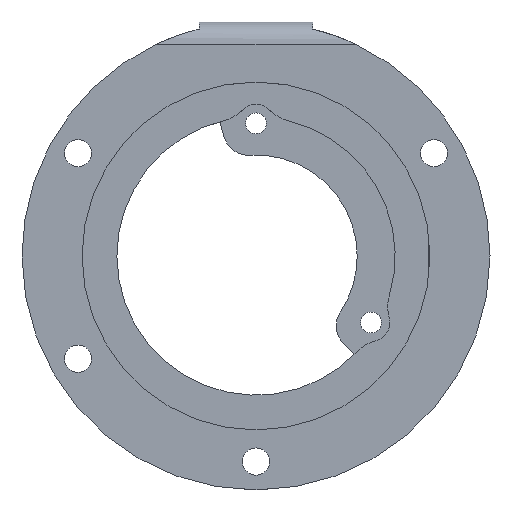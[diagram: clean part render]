
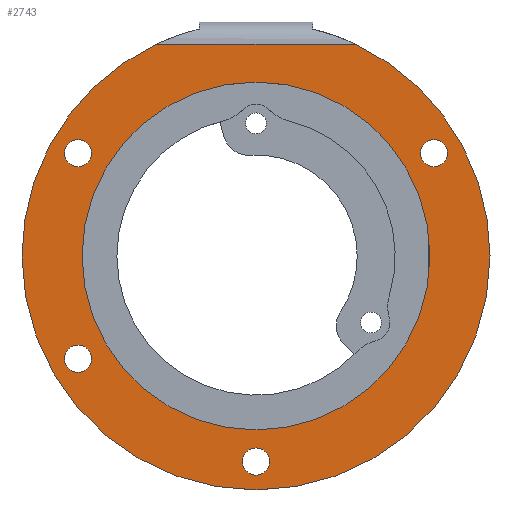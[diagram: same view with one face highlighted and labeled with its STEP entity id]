
A CAD part, top view. The second image highlights one B-rep face of the part: STEP entity #2743.
In plain terms, the highlighted planar face has unit normal (0, 0, 1).
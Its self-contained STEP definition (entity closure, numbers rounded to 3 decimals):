
#6 = VERTEX_POINT ( 'NONE', #693 ) ;
#7 = VERTEX_POINT ( 'NONE', #692 ) ;
#10 = EDGE_CURVE ( 'NONE', #6, #7, #780, .T. ) ;
#25 = VERTEX_POINT ( 'NONE', #839 ) ;
#28 = EDGE_CURVE ( 'NONE', #29, #25, #837, .T. ) ;
#29 = VERTEX_POINT ( 'NONE', #838 ) ;
#37 = VERTEX_POINT ( 'NONE', #739 ) ;
#41 = VERTEX_POINT ( 'NONE', #736 ) ;
#43 = EDGE_CURVE ( 'NONE', #41, #37, #731, .T. ) ;
#93 = EDGE_CURVE ( 'NONE', #94, #95, #974, .T. ) ;
#94 = VERTEX_POINT ( 'NONE', #969 ) ;
#95 = VERTEX_POINT ( 'NONE', #968 ) ;
#123 = EDGE_CURVE ( 'NONE', #124, #6, #1021, .T. ) ;
#124 = VERTEX_POINT ( 'NONE', #1016 ) ;
#222 = EDGE_CURVE ( 'NONE', #223, #224, #1252, .T. ) ;
#223 = VERTEX_POINT ( 'NONE', #1247 ) ;
#224 = VERTEX_POINT ( 'NONE', #1246 ) ;
#294 = EDGE_CURVE ( 'NONE', #295, #296, #1386, .T. ) ;
#295 = VERTEX_POINT ( 'NONE', #1387 ) ;
#296 = VERTEX_POINT ( 'NONE', #1503 ) ;
#397 = EDGE_LOOP ( 'NONE', ( #2737, #2738 ) ) ;
#401 = EDGE_CURVE ( 'NONE', #402, #124, #1448, .T. ) ;
#402 = VERTEX_POINT ( 'NONE', #1449 ) ;
#403 = ORIENTED_EDGE ( 'NONE', *, *, #123, .T. ) ;
#508 = ORIENTED_EDGE ( 'NONE', *, *, #10, .T. ) ;
#609 = ORIENTED_EDGE ( 'NONE', *, *, #610, .T. ) ;
#610 = EDGE_CURVE ( 'NONE', #7, #402, #1766, .T. ) ;
#692 = CARTESIAN_POINT ( 'NONE',  ( 15.708, 33.5, 7. ) ) ;
#693 = CARTESIAN_POINT ( 'NONE',  ( 37., 0., 7. ) ) ;
#727 = DIRECTION ( 'NONE',  ( 1., 0., 0. ) ) ;
#728 = DIRECTION ( 'NONE',  ( 0., 0., 1. ) ) ;
#729 = CARTESIAN_POINT ( 'NONE',  ( 28.146, 16.25, 7. ) ) ;
#730 = AXIS2_PLACEMENT_3D ( 'NONE', #729, #728, #727 ) ;
#731 = CIRCLE ( 'NONE', #730, 2.15 ) ;
#736 = CARTESIAN_POINT ( 'NONE',  ( 25.996, 16.25, 7. ) ) ;
#739 = CARTESIAN_POINT ( 'NONE',  ( 30.296, 16.25, 7. ) ) ;
#776 = DIRECTION ( 'NONE',  ( 1., 0., 0. ) ) ;
#777 = DIRECTION ( 'NONE',  ( 0., 0., 1. ) ) ;
#778 = CARTESIAN_POINT ( 'NONE',  ( 0., 0., 7. ) ) ;
#779 = AXIS2_PLACEMENT_3D ( 'NONE', #778, #777, #776 ) ;
#780 = CIRCLE ( 'NONE', #779, 37. ) ;
#833 = DIRECTION ( 'NONE',  ( 1., 0., 0. ) ) ;
#834 = DIRECTION ( 'NONE',  ( 0., 0., 1. ) ) ;
#835 = CARTESIAN_POINT ( 'NONE',  ( 0., 0., 7. ) ) ;
#836 = AXIS2_PLACEMENT_3D ( 'NONE', #835, #834, #833 ) ;
#837 = CIRCLE ( 'NONE', #836, 27.5 ) ;
#838 = CARTESIAN_POINT ( 'NONE',  ( -27.5, 0., 7. ) ) ;
#839 = CARTESIAN_POINT ( 'NONE',  ( 27.5, 0., 7. ) ) ;
#968 = CARTESIAN_POINT ( 'NONE',  ( -25.996, 16.25, 7. ) ) ;
#969 = CARTESIAN_POINT ( 'NONE',  ( -30.296, 16.25, 7. ) ) ;
#970 = DIRECTION ( 'NONE',  ( 1., 0., 0. ) ) ;
#971 = DIRECTION ( 'NONE',  ( 0., 0., 1. ) ) ;
#972 = CARTESIAN_POINT ( 'NONE',  ( -28.146, 16.25, 7. ) ) ;
#973 = AXIS2_PLACEMENT_3D ( 'NONE', #972, #971, #970 ) ;
#974 = CIRCLE ( 'NONE', #973, 2.15 ) ;
#1016 = CARTESIAN_POINT ( 'NONE',  ( -37., 0., 7. ) ) ;
#1017 = DIRECTION ( 'NONE',  ( 1., 0., 0. ) ) ;
#1018 = DIRECTION ( 'NONE',  ( 0., 0., 1. ) ) ;
#1019 = CARTESIAN_POINT ( 'NONE',  ( 0., 0., 7. ) ) ;
#1020 = AXIS2_PLACEMENT_3D ( 'NONE', #1019, #1018, #1017 ) ;
#1021 = CIRCLE ( 'NONE', #1020, 37. ) ;
#1246 = CARTESIAN_POINT ( 'NONE',  ( -25.996, -16.25, 7. ) ) ;
#1247 = CARTESIAN_POINT ( 'NONE',  ( -30.296, -16.25, 7. ) ) ;
#1248 = DIRECTION ( 'NONE',  ( 1., 0., 0. ) ) ;
#1249 = DIRECTION ( 'NONE',  ( 0., 0., 1. ) ) ;
#1250 = CARTESIAN_POINT ( 'NONE',  ( -28.146, -16.25, 7. ) ) ;
#1251 = AXIS2_PLACEMENT_3D ( 'NONE', #1250, #1249, #1248 ) ;
#1252 = CIRCLE ( 'NONE', #1251, 2.15 ) ;
#1322 = DIRECTION ( 'NONE',  ( 1., 0., 0. ) ) ;
#1323 = DIRECTION ( 'NONE',  ( 0., 0., 1. ) ) ;
#1382 = DIRECTION ( 'NONE',  ( 1., 0., 0. ) ) ;
#1383 = DIRECTION ( 'NONE',  ( 0., 0., 1. ) ) ;
#1384 = CARTESIAN_POINT ( 'NONE',  ( 0., -32.5, 7. ) ) ;
#1385 = AXIS2_PLACEMENT_3D ( 'NONE', #1384, #1383, #1382 ) ;
#1386 = CIRCLE ( 'NONE', #1385, 2.15 ) ;
#1387 = CARTESIAN_POINT ( 'NONE',  ( -2.15, -32.5, 7. ) ) ;
#1446 = CARTESIAN_POINT ( 'NONE',  ( 0., 0., 7. ) ) ;
#1447 = AXIS2_PLACEMENT_3D ( 'NONE', #1446, #1323, #1322 ) ;
#1448 = CIRCLE ( 'NONE', #1447, 37. ) ;
#1449 = CARTESIAN_POINT ( 'NONE',  ( -15.708, 33.5, 7. ) ) ;
#1503 = CARTESIAN_POINT ( 'NONE',  ( 2.15, -32.5, 7. ) ) ;
#1675 = DIRECTION ( 'NONE',  ( -1., 0., 0. ) ) ;
#1676 = VECTOR ( 'NONE', #1675, 1000. ) ;
#1765 = CARTESIAN_POINT ( 'NONE',  ( -9., 33.5, 7. ) ) ;
#1766 = LINE ( 'NONE', #1765, #1676 ) ;
#1864 = DIRECTION ( 'NONE',  ( 1., 0., 0. ) ) ;
#1865 = DIRECTION ( 'NONE',  ( 0., 0., 1. ) ) ;
#1866 = CARTESIAN_POINT ( 'NONE',  ( -28.146, -16.25, 7. ) ) ;
#1867 = AXIS2_PLACEMENT_3D ( 'NONE', #1866, #1865, #1864 ) ;
#1868 = CIRCLE ( 'NONE', #1867, 2.15 ) ;
#2067 = DIRECTION ( 'NONE',  ( 1., 0., 0. ) ) ;
#2068 = DIRECTION ( 'NONE',  ( 0., 0., 1. ) ) ;
#2069 = CARTESIAN_POINT ( 'NONE',  ( 0., 0., 7. ) ) ;
#2070 = AXIS2_PLACEMENT_3D ( 'NONE', #2069, #2068, #2067 ) ;
#2071 = CIRCLE ( 'NONE', #2070, 27.5 ) ;
#2095 = CARTESIAN_POINT ( 'NONE',  ( 28.146, 16.25, 7. ) ) ;
#2096 = DIRECTION ( 'NONE',  ( 1., 0., 0. ) ) ;
#2097 = DIRECTION ( 'NONE',  ( 0., 0., 1. ) ) ;
#2098 = CARTESIAN_POINT ( 'NONE',  ( 0., -32.5, 7. ) ) ;
#2099 = AXIS2_PLACEMENT_3D ( 'NONE', #2098, #2097, #2096 ) ;
#2100 = CIRCLE ( 'NONE', #2099, 2.15 ) ;
#2151 = DIRECTION ( 'NONE',  ( 1., 0., 0. ) ) ;
#2152 = DIRECTION ( 'NONE',  ( 0., 0., 1. ) ) ;
#2153 = CARTESIAN_POINT ( 'NONE',  ( -28.146, 16.25, 7. ) ) ;
#2154 = AXIS2_PLACEMENT_3D ( 'NONE', #2153, #2152, #2151 ) ;
#2192 = CIRCLE ( 'NONE', #2154, 2.15 ) ;
#2193 = DIRECTION ( 'NONE',  ( 1., 0., 0. ) ) ;
#2194 = DIRECTION ( 'NONE',  ( 0., 0., 1. ) ) ;
#2195 = AXIS2_PLACEMENT_3D ( 'NONE', #2095, #2194, #2193 ) ;
#2196 = CIRCLE ( 'NONE', #2195, 2.15 ) ;
#2259 = FACE_BOUND ( 'NONE', #2740, .T. ) ;
#2260 = FACE_BOUND ( 'NONE', #397, .T. ) ;
#2261 = FACE_OUTER_BOUND ( 'NONE', #2651, .T. ) ;
#2351 = DIRECTION ( 'NONE',  ( 1., 0., 0. ) ) ;
#2352 = DIRECTION ( 'NONE',  ( 0., 0., 1. ) ) ;
#2353 = CARTESIAN_POINT ( 'NONE',  ( 0., 0., 7. ) ) ;
#2380 = FACE_BOUND ( 'NONE', #2647, .T. ) ;
#2381 = FACE_BOUND ( 'NONE', #2744, .T. ) ;
#2448 = AXIS2_PLACEMENT_3D ( 'NONE', #2353, #2352, #2351 ) ;
#2449 = PLANE ( 'NONE',  #2448 ) ;
#2450 = FACE_BOUND ( 'NONE', #2583, .T. ) ;
#2583 = EDGE_LOOP ( 'NONE', ( #2584, #2585 ) ) ;
#2584 = ORIENTED_EDGE ( 'NONE', *, *, #222, .F. ) ;
#2585 = ORIENTED_EDGE ( 'NONE', *, *, #2592, .F. ) ;
#2592 = EDGE_CURVE ( 'NONE', #224, #223, #1868, .T. ) ;
#2644 = ORIENTED_EDGE ( 'NONE', *, *, #294, .F. ) ;
#2645 = ORIENTED_EDGE ( 'NONE', *, *, #2646, .F. ) ;
#2646 = EDGE_CURVE ( 'NONE', #296, #295, #2100, .T. ) ;
#2647 = EDGE_LOOP ( 'NONE', ( #2648, #2649 ) ) ;
#2648 = ORIENTED_EDGE ( 'NONE', *, *, #43, .F. ) ;
#2649 = ORIENTED_EDGE ( 'NONE', *, *, #2650, .F. ) ;
#2650 = EDGE_CURVE ( 'NONE', #37, #41, #2196, .T. ) ;
#2651 = EDGE_LOOP ( 'NONE', ( #2652, #403, #508, #609 ) ) ;
#2652 = ORIENTED_EDGE ( 'NONE', *, *, #401, .T. ) ;
#2654 = ORIENTED_EDGE ( 'NONE', *, *, #93, .F. ) ;
#2655 = ORIENTED_EDGE ( 'NONE', *, *, #2656, .F. ) ;
#2656 = EDGE_CURVE ( 'NONE', #95, #94, #2192, .T. ) ;
#2737 = ORIENTED_EDGE ( 'NONE', *, *, #28, .F. ) ;
#2738 = ORIENTED_EDGE ( 'NONE', *, *, #2739, .F. ) ;
#2739 = EDGE_CURVE ( 'NONE', #25, #29, #2071, .T. ) ;
#2740 = EDGE_LOOP ( 'NONE', ( #2654, #2655 ) ) ;
#2743 = ADVANCED_FACE ( 'NONE', ( #2381, #2380, #2261, #2260, #2259, #2450 ), #2449, .T. ) ;
#2744 = EDGE_LOOP ( 'NONE', ( #2644, #2645 ) ) ;
